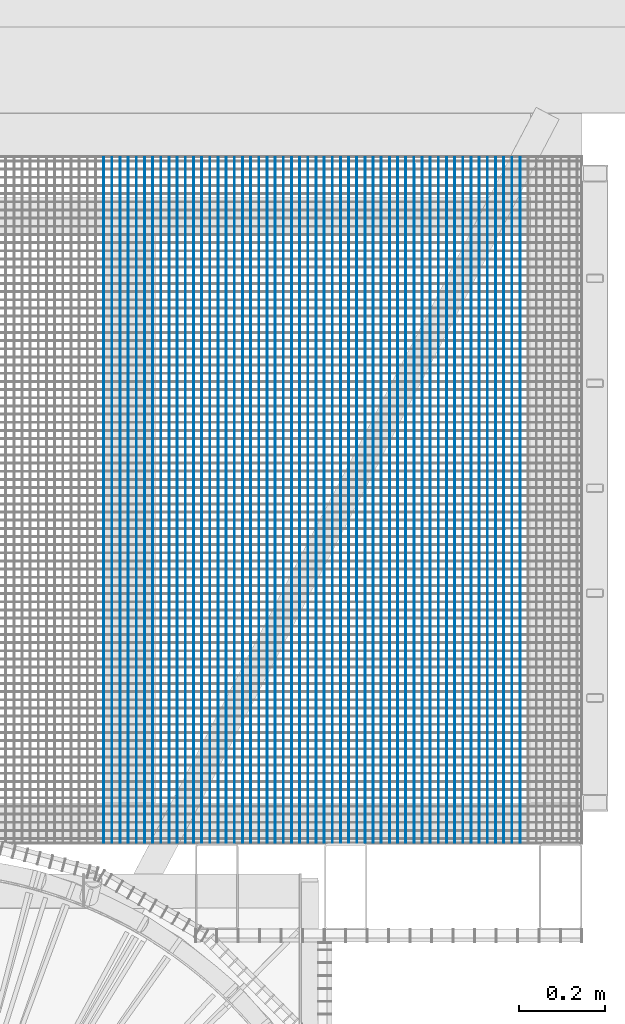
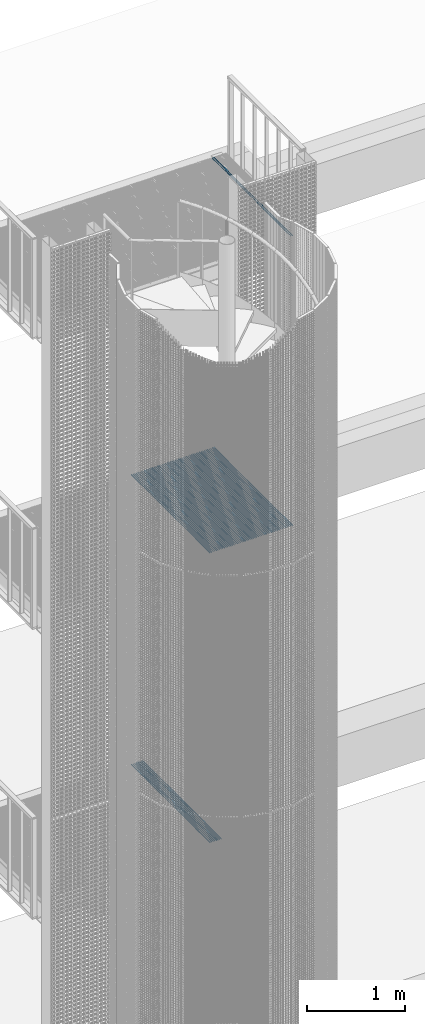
# One storey, part 87 of 1148: 62 beams, 3 elements without a shape of their own.
"""IFC2X3 building model written with IfcOpenShell, lengths in millimetres."""

from ifc_helpers import new_model, si_unit, frame, origin_with_axes, origin_2d_with_axis, place, context, subcontext, project, spatial, rectangle, extrude, material, type_object, element, aggregate, save


model = new_model("IFC2X3")

# Units and contexts
model_context = context("Model", 3, precision=1e-05, world=origin_with_axes())
body_context = subcontext(model_context, "Body", "Model", "MODEL_VIEW")
ifc_project = project(units=[si_unit("LENGTHUNIT", "METRE", prefix="MILLI"), si_unit("AREAUNIT", "SQUARE_METRE"), si_unit("VOLUMEUNIT", "CUBIC_METRE"), si_unit("MASSUNIT", "GRAM", prefix="KILO"), si_unit("TIMEUNIT", "SECOND"), si_unit("PLANEANGLEUNIT", "RADIAN"), si_unit("SOLIDANGLEUNIT", "STERADIAN"), si_unit("THERMODYNAMICTEMPERATUREUNIT", "DEGREE_CELSIUS"), si_unit("LUMINOUSINTENSITYUNIT", "LUMEN")], contexts=[model_context])

# Site, building, storey
site_placement = place(None, origin_with_axes())
site = spatial("IfcSite", under=ifc_project, at=site_placement, Name="Undefined", CompositionType="ELEMENT")
building_placement = place(site_placement, origin_with_axes())
building = spatial("IfcBuilding", under=site, at=building_placement, Name="Undefined", CompositionType="ELEMENT")
storey_placement = place(building_placement, origin_with_axes())
storey = spatial("IfcBuildingStorey", under=building, at=storey_placement, Name="Undefined", CompositionType="ELEMENT", Elevation=0.0)

# Assembly, beams
assembly_1_placement = place(storey_placement, origin_with_axes())
assembly_1 = element("IfcElementAssembly", 1, at=assembly_1_placement, inside=storey, Name="BORDURE", AssemblyPlace="NOTDEFINED", PredefinedType="NOTDEFINED")
ifc_material = material(Name="STEEL/S235JR")
beam_type = type_object("IfcBeamType", Name="PL2*10", PredefinedType="NOTDEFINED")
beam_1_placement = place(assembly_1_placement, frame((1387.07542471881, 1102.00914583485, 17285.0), z_axis=(0.0, 0.0, 1.0), x_axis=(-4.50599999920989e-06, 0.999999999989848, 0.0)))
beam_1 = element("IfcBeam", 2, at=beam_1_placement, type_object=beam_type, material=ifc_material, Name="ENTRETOISE", context=body_context, shape_type="SweptSolid", body=[
    extrude(rectangle(XDim=2.0, YDim=10.0, at=origin_2d_with_axis()), frame((1596.0000000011, -1.35186458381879e-18, -7.27595761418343e-12), z_axis=(-1.0, 0.0, 0.0), x_axis=(0.0, -1.0, 0.0)), (0.0, 0.0, 1.0), 1596.0),
])
beam_2_placement = place(assembly_1_placement, frame((1406.0754247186, 1102.00923935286, 17285.0), z_axis=(0.0, 0.0, 1.0), x_axis=(-4.50599999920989e-06, 0.999999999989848, 0.0)))
beam_2 = element("IfcBeam", 3, at=beam_2_placement, type_object=beam_type, material=ifc_material, Name="ENTRETOISE", context=body_context, shape_type="SweptSolid", body=[
    extrude(rectangle(XDim=2.0, YDim=10.0, at=origin_2d_with_axis()), frame((1596.0000000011, -1.35186458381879e-18, -7.27595761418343e-12), z_axis=(-1.0, 0.0, 0.0), x_axis=(0.0, -1.0, 0.0)), (0.0, 0.0, 1.0), 1596.0),
])
aggregate(assembly_1, [beam_1, beam_2])

assembly_2_placement = place(storey_placement, origin_with_axes())
assembly_2 = element("IfcElementAssembly", 4, at=assembly_2_placement, inside=storey, Name="BORDURE", AssemblyPlace="NOTDEFINED", PredefinedType="NOTDEFINED")
beam_3_placement = place(assembly_2_placement, frame((437.075424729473, 1102.00446993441, 13685.0), z_axis=(0.0, 0.0, 1.0), x_axis=(-4.50599999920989e-06, 0.999999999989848, 0.0)))
beam_3 = element("IfcBeam", 5, at=beam_3_placement, type_object=beam_type, material=ifc_material, Name="ENTRETOISE", context=body_context, shape_type="SweptSolid", body=[
    extrude(rectangle(XDim=2.0, YDim=10.0, at=origin_2d_with_axis()), frame((1596.0000000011, -1.35186458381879e-18, -7.27595761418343e-12), z_axis=(-1.0, 0.0, 0.0), x_axis=(0.0, -1.0, 0.0)), (0.0, 0.0, 1.0), 1596.0),
])
beam_4_placement = place(assembly_2_placement, frame((456.075424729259, 1102.00456345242, 13685.0), z_axis=(0.0, 0.0, 1.0), x_axis=(-4.50599999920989e-06, 0.999999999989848, 0.0)))
beam_4 = element("IfcBeam", 6, at=beam_4_placement, type_object=beam_type, material=ifc_material, Name="ENTRETOISE", context=body_context, shape_type="SweptSolid", body=[
    extrude(rectangle(XDim=2.0, YDim=10.0, at=origin_2d_with_axis()), frame((1596.0000000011, -1.35186458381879e-18, -7.27595761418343e-12), z_axis=(-1.0, 0.0, 0.0), x_axis=(0.0, -1.0, 0.0)), (0.0, 0.0, 1.0), 1596.0),
])
beam_5_placement = place(assembly_2_placement, frame((475.075424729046, 1102.00465697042, 13685.0), z_axis=(0.0, 0.0, 1.0), x_axis=(-4.50599999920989e-06, 0.999999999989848, 0.0)))
beam_5 = element("IfcBeam", 7, at=beam_5_placement, type_object=beam_type, material=ifc_material, Name="ENTRETOISE", context=body_context, shape_type="SweptSolid", body=[
    extrude(rectangle(XDim=2.0, YDim=10.0, at=origin_2d_with_axis()), frame((1596.0000000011, -1.35186458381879e-18, -7.27595761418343e-12), z_axis=(-1.0, 0.0, 0.0), x_axis=(0.0, -1.0, 0.0)), (0.0, 0.0, 1.0), 1596.0),
])
beam_6_placement = place(assembly_2_placement, frame((494.075424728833, 1102.00475048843, 13685.0), z_axis=(0.0, 0.0, 1.0), x_axis=(-4.50599999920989e-06, 0.999999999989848, 0.0)))
beam_6 = element("IfcBeam", 8, at=beam_6_placement, type_object=beam_type, material=ifc_material, Name="ENTRETOISE", context=body_context, shape_type="SweptSolid", body=[
    extrude(rectangle(XDim=2.0, YDim=10.0, at=origin_2d_with_axis()), frame((1596.0000000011, -1.35186458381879e-18, -7.27595761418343e-12), z_axis=(-1.0, 0.0, 0.0), x_axis=(0.0, -1.0, 0.0)), (0.0, 0.0, 1.0), 1596.0),
])
beam_7_placement = place(assembly_2_placement, frame((513.07542472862, 1102.00484400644, 13685.0), z_axis=(0.0, 0.0, 1.0), x_axis=(-4.50599999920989e-06, 0.999999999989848, 0.0)))
beam_7 = element("IfcBeam", 9, at=beam_7_placement, type_object=beam_type, material=ifc_material, Name="ENTRETOISE", context=body_context, shape_type="SweptSolid", body=[
    extrude(rectangle(XDim=2.0, YDim=10.0, at=origin_2d_with_axis()), frame((1596.0000000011, -1.35186458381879e-18, -7.27595761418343e-12), z_axis=(-1.0, 0.0, 0.0), x_axis=(0.0, -1.0, 0.0)), (0.0, 0.0, 1.0), 1596.0),
])
beam_8_placement = place(assembly_2_placement, frame((532.075424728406, 1102.00493752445, 13685.0), z_axis=(0.0, 0.0, 1.0), x_axis=(-4.50599999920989e-06, 0.999999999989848, 0.0)))
beam_8 = element("IfcBeam", 10, at=beam_8_placement, type_object=beam_type, material=ifc_material, Name="ENTRETOISE", context=body_context, shape_type="SweptSolid", body=[
    extrude(rectangle(XDim=2.0, YDim=10.0, at=origin_2d_with_axis()), frame((1596.0000000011, -1.35186458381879e-18, -7.27595761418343e-12), z_axis=(-1.0, 0.0, 0.0), x_axis=(0.0, -1.0, 0.0)), (0.0, 0.0, 1.0), 1596.0),
])
beam_9_placement = place(assembly_2_placement, frame((551.075424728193, 1102.00503104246, 13685.0), z_axis=(0.0, 0.0, 1.0), x_axis=(-4.50599999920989e-06, 0.999999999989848, 0.0)))
beam_9 = element("IfcBeam", 11, at=beam_9_placement, type_object=beam_type, material=ifc_material, Name="ENTRETOISE", context=body_context, shape_type="SweptSolid", body=[
    extrude(rectangle(XDim=2.0, YDim=10.0, at=origin_2d_with_axis()), frame((1596.0000000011, -1.35186458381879e-18, -7.27595761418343e-12), z_axis=(-1.0, 0.0, 0.0), x_axis=(0.0, -1.0, 0.0)), (0.0, 0.0, 1.0), 1596.0),
])
beam_10_placement = place(assembly_2_placement, frame((570.075424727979, 1102.00512456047, 13685.0), z_axis=(0.0, 0.0, 1.0), x_axis=(-4.50599999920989e-06, 0.999999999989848, 0.0)))
beam_10 = element("IfcBeam", 12, at=beam_10_placement, type_object=beam_type, material=ifc_material, Name="ENTRETOISE", context=body_context, shape_type="SweptSolid", body=[
    extrude(rectangle(XDim=2.0, YDim=10.0, at=origin_2d_with_axis()), frame((1596.0000000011, -1.35186458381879e-18, -7.27595761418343e-12), z_axis=(-1.0, 0.0, 0.0), x_axis=(0.0, -1.0, 0.0)), (0.0, 0.0, 1.0), 1596.0),
])
beam_11_placement = place(assembly_2_placement, frame((589.075424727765, 1102.00521807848, 13685.0), z_axis=(0.0, 0.0, 1.0), x_axis=(-4.50599999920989e-06, 0.999999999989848, 0.0)))
beam_11 = element("IfcBeam", 13, at=beam_11_placement, type_object=beam_type, material=ifc_material, Name="ENTRETOISE", context=body_context, shape_type="SweptSolid", body=[
    extrude(rectangle(XDim=2.0, YDim=10.0, at=origin_2d_with_axis()), frame((1596.0000000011, -1.35186458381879e-18, -7.27595761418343e-12), z_axis=(-1.0, 0.0, 0.0), x_axis=(0.0, -1.0, 0.0)), (0.0, 0.0, 1.0), 1596.0),
])
beam_12_placement = place(assembly_2_placement, frame((608.075424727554, 1102.00531159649, 13685.0), z_axis=(0.0, 0.0, 1.0), x_axis=(-4.50599999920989e-06, 0.999999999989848, 0.0)))
beam_12 = element("IfcBeam", 14, at=beam_12_placement, type_object=beam_type, material=ifc_material, Name="ENTRETOISE", context=body_context, shape_type="SweptSolid", body=[
    extrude(rectangle(XDim=2.0, YDim=10.0, at=origin_2d_with_axis()), frame((1596.0000000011, -1.35186458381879e-18, -7.27595761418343e-12), z_axis=(-1.0, 0.0, 0.0), x_axis=(0.0, -1.0, 0.0)), (0.0, 0.0, 1.0), 1596.0),
])
beam_13_placement = place(assembly_2_placement, frame((627.07542472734, 1102.0054051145, 13685.0), z_axis=(0.0, 0.0, 1.0), x_axis=(-4.50599999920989e-06, 0.999999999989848, 0.0)))
beam_13 = element("IfcBeam", 15, at=beam_13_placement, type_object=beam_type, material=ifc_material, Name="ENTRETOISE", context=body_context, shape_type="SweptSolid", body=[
    extrude(rectangle(XDim=2.0, YDim=10.0, at=origin_2d_with_axis()), frame((1596.0000000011, -1.35186458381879e-18, -7.27595761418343e-12), z_axis=(-1.0, 0.0, 0.0), x_axis=(0.0, -1.0, 0.0)), (0.0, 0.0, 1.0), 1596.0),
])
beam_14_placement = place(assembly_2_placement, frame((646.075424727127, 1102.0054986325, 13685.0), z_axis=(0.0, 0.0, 1.0), x_axis=(-4.50599999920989e-06, 0.999999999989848, 0.0)))
beam_14 = element("IfcBeam", 16, at=beam_14_placement, type_object=beam_type, material=ifc_material, Name="ENTRETOISE", context=body_context, shape_type="SweptSolid", body=[
    extrude(rectangle(XDim=2.0, YDim=10.0, at=origin_2d_with_axis()), frame((1596.0000000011, -1.35186458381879e-18, -7.27595761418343e-12), z_axis=(-1.0, 0.0, 0.0), x_axis=(0.0, -1.0, 0.0)), (0.0, 0.0, 1.0), 1596.0),
])
beam_15_placement = place(assembly_2_placement, frame((665.075424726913, 1102.00559215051, 13685.0), z_axis=(0.0, 0.0, 1.0), x_axis=(-4.50599999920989e-06, 0.999999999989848, 0.0)))
beam_15 = element("IfcBeam", 17, at=beam_15_placement, type_object=beam_type, material=ifc_material, Name="ENTRETOISE", context=body_context, shape_type="SweptSolid", body=[
    extrude(rectangle(XDim=2.0, YDim=10.0, at=origin_2d_with_axis()), frame((1596.0000000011, -1.35186458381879e-18, -7.27595761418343e-12), z_axis=(-1.0, 0.0, 0.0), x_axis=(0.0, -1.0, 0.0)), (0.0, 0.0, 1.0), 1596.0),
])
beam_16_placement = place(assembly_2_placement, frame((684.0754247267, 1102.00568566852, 13685.0), z_axis=(0.0, 0.0, 1.0), x_axis=(-4.50599999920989e-06, 0.999999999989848, 0.0)))
beam_16 = element("IfcBeam", 18, at=beam_16_placement, type_object=beam_type, material=ifc_material, Name="ENTRETOISE", context=body_context, shape_type="SweptSolid", body=[
    extrude(rectangle(XDim=2.0, YDim=10.0, at=origin_2d_with_axis()), frame((1596.0000000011, -1.35186458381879e-18, -7.27595761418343e-12), z_axis=(-1.0, 0.0, 0.0), x_axis=(0.0, -1.0, 0.0)), (0.0, 0.0, 1.0), 1596.0),
])
beam_17_placement = place(assembly_2_placement, frame((703.075424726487, 1102.00577918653, 13685.0), z_axis=(0.0, 0.0, 1.0), x_axis=(-4.50599999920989e-06, 0.999999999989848, 0.0)))
beam_17 = element("IfcBeam", 19, at=beam_17_placement, type_object=beam_type, material=ifc_material, Name="ENTRETOISE", context=body_context, shape_type="SweptSolid", body=[
    extrude(rectangle(XDim=2.0, YDim=10.0, at=origin_2d_with_axis()), frame((1596.0000000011, -1.35186458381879e-18, -7.27595761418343e-12), z_axis=(-1.0, 0.0, 0.0), x_axis=(0.0, -1.0, 0.0)), (0.0, 0.0, 1.0), 1596.0),
])
beam_18_placement = place(assembly_2_placement, frame((722.075424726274, 1102.00587270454, 13685.0), z_axis=(0.0, 0.0, 1.0), x_axis=(-4.50599999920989e-06, 0.999999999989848, 0.0)))
beam_18 = element("IfcBeam", 20, at=beam_18_placement, type_object=beam_type, material=ifc_material, Name="ENTRETOISE", context=body_context, shape_type="SweptSolid", body=[
    extrude(rectangle(XDim=2.0, YDim=10.0, at=origin_2d_with_axis()), frame((1596.0000000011, -1.35186458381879e-18, -7.27595761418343e-12), z_axis=(-1.0, 0.0, 0.0), x_axis=(0.0, -1.0, 0.0)), (0.0, 0.0, 1.0), 1596.0),
])
beam_19_placement = place(assembly_2_placement, frame((741.07542472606, 1102.00596622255, 13685.0), z_axis=(0.0, 0.0, 1.0), x_axis=(-4.50599999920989e-06, 0.999999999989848, 0.0)))
beam_19 = element("IfcBeam", 21, at=beam_19_placement, type_object=beam_type, material=ifc_material, Name="ENTRETOISE", context=body_context, shape_type="SweptSolid", body=[
    extrude(rectangle(XDim=2.0, YDim=10.0, at=origin_2d_with_axis()), frame((1596.0000000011, -1.35186458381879e-18, -7.27595761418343e-12), z_axis=(-1.0, 0.0, 0.0), x_axis=(0.0, -1.0, 0.0)), (0.0, 0.0, 1.0), 1596.0),
])
beam_20_placement = place(assembly_2_placement, frame((760.075424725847, 1102.00605974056, 13685.0), z_axis=(0.0, 0.0, 1.0), x_axis=(-4.50599999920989e-06, 0.999999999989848, 0.0)))
beam_20 = element("IfcBeam", 22, at=beam_20_placement, type_object=beam_type, material=ifc_material, Name="ENTRETOISE", context=body_context, shape_type="SweptSolid", body=[
    extrude(rectangle(XDim=2.0, YDim=10.0, at=origin_2d_with_axis()), frame((1596.0000000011, -1.35186458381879e-18, -7.27595761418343e-12), z_axis=(-1.0, 0.0, 0.0), x_axis=(0.0, -1.0, 0.0)), (0.0, 0.0, 1.0), 1596.0),
])
beam_21_placement = place(assembly_2_placement, frame((779.075424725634, 1102.00615325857, 13685.0), z_axis=(0.0, 0.0, 1.0), x_axis=(-4.50599999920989e-06, 0.999999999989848, 0.0)))
beam_21 = element("IfcBeam", 23, at=beam_21_placement, type_object=beam_type, material=ifc_material, Name="ENTRETOISE", context=body_context, shape_type="SweptSolid", body=[
    extrude(rectangle(XDim=2.0, YDim=10.0, at=origin_2d_with_axis()), frame((1596.0000000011, -1.35186458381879e-18, -7.27595761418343e-12), z_axis=(-1.0, 0.0, 0.0), x_axis=(0.0, -1.0, 0.0)), (0.0, 0.0, 1.0), 1596.0),
])
beam_22_placement = place(assembly_2_placement, frame((798.075424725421, 1102.00624677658, 13685.0), z_axis=(0.0, 0.0, 1.0), x_axis=(-4.50599999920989e-06, 0.999999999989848, 0.0)))
beam_22 = element("IfcBeam", 24, at=beam_22_placement, type_object=beam_type, material=ifc_material, Name="ENTRETOISE", context=body_context, shape_type="SweptSolid", body=[
    extrude(rectangle(XDim=2.0, YDim=10.0, at=origin_2d_with_axis()), frame((1596.0000000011, -1.35186458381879e-18, -7.27595761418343e-12), z_axis=(-1.0, 0.0, 0.0), x_axis=(0.0, -1.0, 0.0)), (0.0, 0.0, 1.0), 1596.0),
])
beam_23_placement = place(assembly_2_placement, frame((817.075424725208, 1102.00634029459, 13685.0), z_axis=(0.0, 0.0, 1.0), x_axis=(-4.50599999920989e-06, 0.999999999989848, 0.0)))
beam_23 = element("IfcBeam", 25, at=beam_23_placement, type_object=beam_type, material=ifc_material, Name="ENTRETOISE", context=body_context, shape_type="SweptSolid", body=[
    extrude(rectangle(XDim=2.0, YDim=10.0, at=origin_2d_with_axis()), frame((1596.0000000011, -1.35186458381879e-18, -7.27595761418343e-12), z_axis=(-1.0, 0.0, 0.0), x_axis=(0.0, -1.0, 0.0)), (0.0, 0.0, 1.0), 1596.0),
])
beam_24_placement = place(assembly_2_placement, frame((836.075424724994, 1102.00643381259, 13685.0), z_axis=(0.0, 0.0, 1.0), x_axis=(-4.50599999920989e-06, 0.999999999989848, 0.0)))
beam_24 = element("IfcBeam", 26, at=beam_24_placement, type_object=beam_type, material=ifc_material, Name="ENTRETOISE", context=body_context, shape_type="SweptSolid", body=[
    extrude(rectangle(XDim=2.0, YDim=10.0, at=origin_2d_with_axis()), frame((1596.0000000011, -1.35186458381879e-18, -7.27595761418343e-12), z_axis=(-1.0, 0.0, 0.0), x_axis=(0.0, -1.0, 0.0)), (0.0, 0.0, 1.0), 1596.0),
])
beam_25_placement = place(assembly_2_placement, frame((855.075424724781, 1102.0065273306, 13685.0), z_axis=(0.0, 0.0, 1.0), x_axis=(-4.50599999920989e-06, 0.999999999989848, 0.0)))
beam_25 = element("IfcBeam", 27, at=beam_25_placement, type_object=beam_type, material=ifc_material, Name="ENTRETOISE", context=body_context, shape_type="SweptSolid", body=[
    extrude(rectangle(XDim=2.0, YDim=10.0, at=origin_2d_with_axis()), frame((1596.0000000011, -1.35186458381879e-18, -7.27595761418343e-12), z_axis=(-1.0, 0.0, 0.0), x_axis=(0.0, -1.0, 0.0)), (0.0, 0.0, 1.0), 1596.0),
])
beam_26_placement = place(assembly_2_placement, frame((874.075424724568, 1102.00662084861, 13685.0), z_axis=(0.0, 0.0, 1.0), x_axis=(-4.50599999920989e-06, 0.999999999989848, 0.0)))
beam_26 = element("IfcBeam", 28, at=beam_26_placement, type_object=beam_type, material=ifc_material, Name="ENTRETOISE", context=body_context, shape_type="SweptSolid", body=[
    extrude(rectangle(XDim=2.0, YDim=10.0, at=origin_2d_with_axis()), frame((1596.0000000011, -1.35186458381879e-18, -7.27595761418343e-12), z_axis=(-1.0, 0.0, 0.0), x_axis=(0.0, -1.0, 0.0)), (0.0, 0.0, 1.0), 1596.0),
])
beam_27_placement = place(assembly_2_placement, frame((893.075424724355, 1102.00671436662, 13685.0), z_axis=(0.0, 0.0, 1.0), x_axis=(-4.50599999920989e-06, 0.999999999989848, 0.0)))
beam_27 = element("IfcBeam", 29, at=beam_27_placement, type_object=beam_type, material=ifc_material, Name="ENTRETOISE", context=body_context, shape_type="SweptSolid", body=[
    extrude(rectangle(XDim=2.0, YDim=10.0, at=origin_2d_with_axis()), frame((1596.0000000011, -1.35186458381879e-18, -7.27595761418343e-12), z_axis=(-1.0, 0.0, 0.0), x_axis=(0.0, -1.0, 0.0)), (0.0, 0.0, 1.0), 1596.0),
])
beam_28_placement = place(assembly_2_placement, frame((912.075424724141, 1102.00680788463, 13685.0), z_axis=(0.0, 0.0, 1.0), x_axis=(-4.50599999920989e-06, 0.999999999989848, 0.0)))
beam_28 = element("IfcBeam", 30, at=beam_28_placement, type_object=beam_type, material=ifc_material, Name="ENTRETOISE", context=body_context, shape_type="SweptSolid", body=[
    extrude(rectangle(XDim=2.0, YDim=10.0, at=origin_2d_with_axis()), frame((1596.0000000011, -1.35186458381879e-18, -7.27595761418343e-12), z_axis=(-1.0, 0.0, 0.0), x_axis=(0.0, -1.0, 0.0)), (0.0, 0.0, 1.0), 1596.0),
])
beam_29_placement = place(assembly_2_placement, frame((931.075424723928, 1102.00690140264, 13685.0), z_axis=(0.0, 0.0, 1.0), x_axis=(-4.50599999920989e-06, 0.999999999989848, 0.0)))
beam_29 = element("IfcBeam", 31, at=beam_29_placement, type_object=beam_type, material=ifc_material, Name="ENTRETOISE", context=body_context, shape_type="SweptSolid", body=[
    extrude(rectangle(XDim=2.0, YDim=10.0, at=origin_2d_with_axis()), frame((1596.0000000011, -1.35186458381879e-18, -7.27595761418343e-12), z_axis=(-1.0, 0.0, 0.0), x_axis=(0.0, -1.0, 0.0)), (0.0, 0.0, 1.0), 1596.0),
])
beam_30_placement = place(assembly_2_placement, frame((950.075424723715, 1102.00699492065, 13685.0), z_axis=(0.0, 0.0, 1.0), x_axis=(-4.50599999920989e-06, 0.999999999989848, 0.0)))
beam_30 = element("IfcBeam", 32, at=beam_30_placement, type_object=beam_type, material=ifc_material, Name="ENTRETOISE", context=body_context, shape_type="SweptSolid", body=[
    extrude(rectangle(XDim=2.0, YDim=10.0, at=origin_2d_with_axis()), frame((1596.0000000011, -1.35186458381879e-18, -7.27595761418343e-12), z_axis=(-1.0, 0.0, 0.0), x_axis=(0.0, -1.0, 0.0)), (0.0, 0.0, 1.0), 1596.0),
])
beam_31_placement = place(assembly_2_placement, frame((969.075424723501, 1102.00708843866, 13685.0), z_axis=(0.0, 0.0, 1.0), x_axis=(-4.50599999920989e-06, 0.999999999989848, 0.0)))
beam_31 = element("IfcBeam", 33, at=beam_31_placement, type_object=beam_type, material=ifc_material, Name="ENTRETOISE", context=body_context, shape_type="SweptSolid", body=[
    extrude(rectangle(XDim=2.0, YDim=10.0, at=origin_2d_with_axis()), frame((1596.0000000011, -1.35186458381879e-18, -7.27595761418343e-12), z_axis=(-1.0, 0.0, 0.0), x_axis=(0.0, -1.0, 0.0)), (0.0, 0.0, 1.0), 1596.0),
])
beam_32_placement = place(assembly_2_placement, frame((988.075424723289, 1102.00718195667, 13685.0), z_axis=(0.0, 0.0, 1.0), x_axis=(-4.50599999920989e-06, 0.999999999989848, 0.0)))
beam_32 = element("IfcBeam", 34, at=beam_32_placement, type_object=beam_type, material=ifc_material, Name="ENTRETOISE", context=body_context, shape_type="SweptSolid", body=[
    extrude(rectangle(XDim=2.0, YDim=10.0, at=origin_2d_with_axis()), frame((1596.0000000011, -1.35186458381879e-18, -7.27595761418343e-12), z_axis=(-1.0, 0.0, 0.0), x_axis=(0.0, -1.0, 0.0)), (0.0, 0.0, 1.0), 1596.0),
])
beam_33_placement = place(assembly_2_placement, frame((1007.07542472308, 1102.00727547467, 13685.0), z_axis=(0.0, 0.0, 1.0), x_axis=(-4.50599999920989e-06, 0.999999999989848, 0.0)))
beam_33 = element("IfcBeam", 35, at=beam_33_placement, type_object=beam_type, material=ifc_material, Name="ENTRETOISE", context=body_context, shape_type="SweptSolid", body=[
    extrude(rectangle(XDim=2.0, YDim=10.0, at=origin_2d_with_axis()), frame((1596.0000000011, -1.35186458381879e-18, -7.27595761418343e-12), z_axis=(-1.0, 0.0, 0.0), x_axis=(0.0, -1.0, 0.0)), (0.0, 0.0, 1.0), 1596.0),
])
beam_34_placement = place(assembly_2_placement, frame((1026.07542472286, 1102.00736899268, 13685.0), z_axis=(0.0, 0.0, 1.0), x_axis=(-4.50599999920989e-06, 0.999999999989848, 0.0)))
beam_34 = element("IfcBeam", 36, at=beam_34_placement, type_object=beam_type, material=ifc_material, Name="ENTRETOISE", context=body_context, shape_type="SweptSolid", body=[
    extrude(rectangle(XDim=2.0, YDim=10.0, at=origin_2d_with_axis()), frame((1596.0000000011, -1.35186458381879e-18, -7.27595761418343e-12), z_axis=(-1.0, 0.0, 0.0), x_axis=(0.0, -1.0, 0.0)), (0.0, 0.0, 1.0), 1596.0),
])
beam_35_placement = place(assembly_2_placement, frame((1045.07542472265, 1102.00746251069, 13685.0), z_axis=(0.0, 0.0, 1.0), x_axis=(-4.50599999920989e-06, 0.999999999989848, 0.0)))
beam_35 = element("IfcBeam", 37, at=beam_35_placement, type_object=beam_type, material=ifc_material, Name="ENTRETOISE", context=body_context, shape_type="SweptSolid", body=[
    extrude(rectangle(XDim=2.0, YDim=10.0, at=origin_2d_with_axis()), frame((1596.0000000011, -1.35186458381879e-18, -7.27595761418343e-12), z_axis=(-1.0, 0.0, 0.0), x_axis=(0.0, -1.0, 0.0)), (0.0, 0.0, 1.0), 1596.0),
])
beam_36_placement = place(assembly_2_placement, frame((1064.07542472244, 1102.0075560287, 13685.0), z_axis=(0.0, 0.0, 1.0), x_axis=(-4.50599999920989e-06, 0.999999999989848, 0.0)))
beam_36 = element("IfcBeam", 38, at=beam_36_placement, type_object=beam_type, material=ifc_material, Name="ENTRETOISE", context=body_context, shape_type="SweptSolid", body=[
    extrude(rectangle(XDim=2.0, YDim=10.0, at=origin_2d_with_axis()), frame((1596.0000000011, -1.35186458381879e-18, -7.27595761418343e-12), z_axis=(-1.0, 0.0, 0.0), x_axis=(0.0, -1.0, 0.0)), (0.0, 0.0, 1.0), 1596.0),
])
beam_37_placement = place(assembly_2_placement, frame((1083.07542472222, 1102.00764954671, 13685.0), z_axis=(0.0, 0.0, 1.0), x_axis=(-4.50599999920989e-06, 0.999999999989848, 0.0)))
beam_37 = element("IfcBeam", 39, at=beam_37_placement, type_object=beam_type, material=ifc_material, Name="ENTRETOISE", context=body_context, shape_type="SweptSolid", body=[
    extrude(rectangle(XDim=2.0, YDim=10.0, at=origin_2d_with_axis()), frame((1596.0000000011, -1.35186458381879e-18, -7.27595761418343e-12), z_axis=(-1.0, 0.0, 0.0), x_axis=(0.0, -1.0, 0.0)), (0.0, 0.0, 1.0), 1596.0),
])
beam_38_placement = place(assembly_2_placement, frame((1102.07542472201, 1102.00774306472, 13685.0), z_axis=(0.0, 0.0, 1.0), x_axis=(-4.50599999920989e-06, 0.999999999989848, 0.0)))
beam_38 = element("IfcBeam", 40, at=beam_38_placement, type_object=beam_type, material=ifc_material, Name="ENTRETOISE", context=body_context, shape_type="SweptSolid", body=[
    extrude(rectangle(XDim=2.0, YDim=10.0, at=origin_2d_with_axis()), frame((1596.0000000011, -1.35186458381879e-18, -7.27595761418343e-12), z_axis=(-1.0, 0.0, 0.0), x_axis=(0.0, -1.0, 0.0)), (0.0, 0.0, 1.0), 1596.0),
])
beam_39_placement = place(assembly_2_placement, frame((1121.0754247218, 1102.00783658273, 13685.0), z_axis=(0.0, 0.0, 1.0), x_axis=(-4.50599999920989e-06, 0.999999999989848, 0.0)))
beam_39 = element("IfcBeam", 41, at=beam_39_placement, type_object=beam_type, material=ifc_material, Name="ENTRETOISE", context=body_context, shape_type="SweptSolid", body=[
    extrude(rectangle(XDim=2.0, YDim=10.0, at=origin_2d_with_axis()), frame((1596.0000000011, -1.35186458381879e-18, -7.27595761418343e-12), z_axis=(-1.0, 0.0, 0.0), x_axis=(0.0, -1.0, 0.0)), (0.0, 0.0, 1.0), 1596.0),
])
beam_40_placement = place(assembly_2_placement, frame((1140.07542472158, 1102.00793010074, 13685.0), z_axis=(0.0, 0.0, 1.0), x_axis=(-4.50599999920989e-06, 0.999999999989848, 0.0)))
beam_40 = element("IfcBeam", 42, at=beam_40_placement, type_object=beam_type, material=ifc_material, Name="ENTRETOISE", context=body_context, shape_type="SweptSolid", body=[
    extrude(rectangle(XDim=2.0, YDim=10.0, at=origin_2d_with_axis()), frame((1596.0000000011, -1.35186458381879e-18, -7.27595761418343e-12), z_axis=(-1.0, 0.0, 0.0), x_axis=(0.0, -1.0, 0.0)), (0.0, 0.0, 1.0), 1596.0),
])
beam_41_placement = place(assembly_2_placement, frame((1159.07542472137, 1102.00802361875, 13685.0), z_axis=(0.0, 0.0, 1.0), x_axis=(-4.50599999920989e-06, 0.999999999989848, 0.0)))
beam_41 = element("IfcBeam", 43, at=beam_41_placement, type_object=beam_type, material=ifc_material, Name="ENTRETOISE", context=body_context, shape_type="SweptSolid", body=[
    extrude(rectangle(XDim=2.0, YDim=10.0, at=origin_2d_with_axis()), frame((1596.0000000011, -1.35186458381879e-18, -7.27595761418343e-12), z_axis=(-1.0, 0.0, 0.0), x_axis=(0.0, -1.0, 0.0)), (0.0, 0.0, 1.0), 1596.0),
])
beam_42_placement = place(assembly_2_placement, frame((1178.07542472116, 1102.00811713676, 13685.0), z_axis=(0.0, 0.0, 1.0), x_axis=(-4.50599999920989e-06, 0.999999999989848, 0.0)))
beam_42 = element("IfcBeam", 44, at=beam_42_placement, type_object=beam_type, material=ifc_material, Name="ENTRETOISE", context=body_context, shape_type="SweptSolid", body=[
    extrude(rectangle(XDim=2.0, YDim=10.0, at=origin_2d_with_axis()), frame((1596.0000000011, -1.35186458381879e-18, -7.27595761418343e-12), z_axis=(-1.0, 0.0, 0.0), x_axis=(0.0, -1.0, 0.0)), (0.0, 0.0, 1.0), 1596.0),
])
beam_43_placement = place(assembly_2_placement, frame((1197.07542472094, 1102.00821065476, 13685.0), z_axis=(0.0, 0.0, 1.0), x_axis=(-4.50599999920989e-06, 0.999999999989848, 0.0)))
beam_43 = element("IfcBeam", 45, at=beam_43_placement, type_object=beam_type, material=ifc_material, Name="ENTRETOISE", context=body_context, shape_type="SweptSolid", body=[
    extrude(rectangle(XDim=2.0, YDim=10.0, at=origin_2d_with_axis()), frame((1596.0000000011, -1.35186458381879e-18, -7.27595761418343e-12), z_axis=(-1.0, 0.0, 0.0), x_axis=(0.0, -1.0, 0.0)), (0.0, 0.0, 1.0), 1596.0),
])
beam_44_placement = place(assembly_2_placement, frame((1216.07542472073, 1102.00830417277, 13685.0), z_axis=(0.0, 0.0, 1.0), x_axis=(-4.50599999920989e-06, 0.999999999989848, 0.0)))
beam_44 = element("IfcBeam", 46, at=beam_44_placement, type_object=beam_type, material=ifc_material, Name="ENTRETOISE", context=body_context, shape_type="SweptSolid", body=[
    extrude(rectangle(XDim=2.0, YDim=10.0, at=origin_2d_with_axis()), frame((1596.0000000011, -1.35186458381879e-18, -7.27595761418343e-12), z_axis=(-1.0, 0.0, 0.0), x_axis=(0.0, -1.0, 0.0)), (0.0, 0.0, 1.0), 1596.0),
])
beam_45_placement = place(assembly_2_placement, frame((1235.07542472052, 1102.00839769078, 13685.0), z_axis=(0.0, 0.0, 1.0), x_axis=(-4.50599999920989e-06, 0.999999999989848, 0.0)))
beam_45 = element("IfcBeam", 47, at=beam_45_placement, type_object=beam_type, material=ifc_material, Name="ENTRETOISE", context=body_context, shape_type="SweptSolid", body=[
    extrude(rectangle(XDim=2.0, YDim=10.0, at=origin_2d_with_axis()), frame((1596.0000000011, -1.35186458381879e-18, -7.27595761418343e-12), z_axis=(-1.0, 0.0, 0.0), x_axis=(0.0, -1.0, 0.0)), (0.0, 0.0, 1.0), 1596.0),
])
beam_46_placement = place(assembly_2_placement, frame((1254.0754247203, 1102.00849120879, 13685.0), z_axis=(0.0, 0.0, 1.0), x_axis=(-4.50599999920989e-06, 0.999999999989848, 0.0)))
beam_46 = element("IfcBeam", 48, at=beam_46_placement, type_object=beam_type, material=ifc_material, Name="ENTRETOISE", context=body_context, shape_type="SweptSolid", body=[
    extrude(rectangle(XDim=2.0, YDim=10.0, at=origin_2d_with_axis()), frame((1596.0000000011, -1.35186458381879e-18, -7.27595761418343e-12), z_axis=(-1.0, 0.0, 0.0), x_axis=(0.0, -1.0, 0.0)), (0.0, 0.0, 1.0), 1596.0),
])
beam_47_placement = place(assembly_2_placement, frame((1273.07542472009, 1102.0085847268, 13685.0), z_axis=(0.0, 0.0, 1.0), x_axis=(-4.50599999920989e-06, 0.999999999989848, 0.0)))
beam_47 = element("IfcBeam", 49, at=beam_47_placement, type_object=beam_type, material=ifc_material, Name="ENTRETOISE", context=body_context, shape_type="SweptSolid", body=[
    extrude(rectangle(XDim=2.0, YDim=10.0, at=origin_2d_with_axis()), frame((1596.0000000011, -1.35186458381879e-18, -7.27595761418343e-12), z_axis=(-1.0, 0.0, 0.0), x_axis=(0.0, -1.0, 0.0)), (0.0, 0.0, 1.0), 1596.0),
])
beam_48_placement = place(assembly_2_placement, frame((1292.07542471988, 1102.00867824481, 13685.0), z_axis=(0.0, 0.0, 1.0), x_axis=(-4.50599999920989e-06, 0.999999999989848, 0.0)))
beam_48 = element("IfcBeam", 50, at=beam_48_placement, type_object=beam_type, material=ifc_material, Name="ENTRETOISE", context=body_context, shape_type="SweptSolid", body=[
    extrude(rectangle(XDim=2.0, YDim=10.0, at=origin_2d_with_axis()), frame((1596.0000000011, -1.35186458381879e-18, -7.27595761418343e-12), z_axis=(-1.0, 0.0, 0.0), x_axis=(0.0, -1.0, 0.0)), (0.0, 0.0, 1.0), 1596.0),
])
beam_49_placement = place(assembly_2_placement, frame((1311.07542471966, 1102.00877176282, 13685.0), z_axis=(0.0, 0.0, 1.0), x_axis=(-4.50599999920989e-06, 0.999999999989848, 0.0)))
beam_49 = element("IfcBeam", 51, at=beam_49_placement, type_object=beam_type, material=ifc_material, Name="ENTRETOISE", context=body_context, shape_type="SweptSolid", body=[
    extrude(rectangle(XDim=2.0, YDim=10.0, at=origin_2d_with_axis()), frame((1596.0000000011, -1.35186458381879e-18, -7.27595761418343e-12), z_axis=(-1.0, 0.0, 0.0), x_axis=(0.0, -1.0, 0.0)), (0.0, 0.0, 1.0), 1596.0),
])
beam_50_placement = place(assembly_2_placement, frame((1330.07542471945, 1102.00886528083, 13685.0), z_axis=(0.0, 0.0, 1.0), x_axis=(-4.50599999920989e-06, 0.999999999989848, 0.0)))
beam_50 = element("IfcBeam", 52, at=beam_50_placement, type_object=beam_type, material=ifc_material, Name="ENTRETOISE", context=body_context, shape_type="SweptSolid", body=[
    extrude(rectangle(XDim=2.0, YDim=10.0, at=origin_2d_with_axis()), frame((1596.0000000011, -1.35186458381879e-18, -7.27595761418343e-12), z_axis=(-1.0, 0.0, 0.0), x_axis=(0.0, -1.0, 0.0)), (0.0, 0.0, 1.0), 1596.0),
])
beam_51_placement = place(assembly_2_placement, frame((1349.07542471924, 1102.00895879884, 13685.0), z_axis=(0.0, 0.0, 1.0), x_axis=(-4.50599999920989e-06, 0.999999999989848, 0.0)))
beam_51 = element("IfcBeam", 53, at=beam_51_placement, type_object=beam_type, material=ifc_material, Name="ENTRETOISE", context=body_context, shape_type="SweptSolid", body=[
    extrude(rectangle(XDim=2.0, YDim=10.0, at=origin_2d_with_axis()), frame((1596.0000000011, -1.35186458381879e-18, -7.27595761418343e-12), z_axis=(-1.0, 0.0, 0.0), x_axis=(0.0, -1.0, 0.0)), (0.0, 0.0, 1.0), 1596.0),
])
beam_52_placement = place(assembly_2_placement, frame((1368.07542471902, 1102.00905231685, 13685.0), z_axis=(0.0, 0.0, 1.0), x_axis=(-4.50599999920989e-06, 0.999999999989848, 0.0)))
beam_52 = element("IfcBeam", 54, at=beam_52_placement, type_object=beam_type, material=ifc_material, Name="ENTRETOISE", context=body_context, shape_type="SweptSolid", body=[
    extrude(rectangle(XDim=2.0, YDim=10.0, at=origin_2d_with_axis()), frame((1596.0000000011, -1.35186458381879e-18, -7.27595761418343e-12), z_axis=(-1.0, 0.0, 0.0), x_axis=(0.0, -1.0, 0.0)), (0.0, 0.0, 1.0), 1596.0),
])
beam_53_placement = place(assembly_2_placement, frame((1387.07542471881, 1102.00914583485, 13685.0), z_axis=(0.0, 0.0, 1.0), x_axis=(-4.50599999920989e-06, 0.999999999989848, 0.0)))
beam_53 = element("IfcBeam", 55, at=beam_53_placement, type_object=beam_type, material=ifc_material, Name="ENTRETOISE", context=body_context, shape_type="SweptSolid", body=[
    extrude(rectangle(XDim=2.0, YDim=10.0, at=origin_2d_with_axis()), frame((1596.0000000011, -1.35186458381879e-18, -7.27595761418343e-12), z_axis=(-1.0, 0.0, 0.0), x_axis=(0.0, -1.0, 0.0)), (0.0, 0.0, 1.0), 1596.0),
])
beam_54_placement = place(assembly_2_placement, frame((1406.0754247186, 1102.00923935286, 13685.0), z_axis=(0.0, 0.0, 1.0), x_axis=(-4.50599999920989e-06, 0.999999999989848, 0.0)))
beam_54 = element("IfcBeam", 56, at=beam_54_placement, type_object=beam_type, material=ifc_material, Name="ENTRETOISE", context=body_context, shape_type="SweptSolid", body=[
    extrude(rectangle(XDim=2.0, YDim=10.0, at=origin_2d_with_axis()), frame((1596.0000000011, -1.35186458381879e-18, -7.27595761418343e-12), z_axis=(-1.0, 0.0, 0.0), x_axis=(0.0, -1.0, 0.0)), (0.0, 0.0, 1.0), 1596.0),
])
aggregate(assembly_2, [beam_3, beam_4, beam_5, beam_6, beam_7, beam_8, beam_9, beam_10, beam_11, beam_12, beam_13, beam_14, beam_15, beam_16, beam_17, beam_18, beam_19, beam_20, beam_21, beam_22, beam_23, beam_24, beam_25, beam_26, beam_27, beam_28, beam_29, beam_30, beam_31, beam_32, beam_33, beam_34, beam_35, beam_36, beam_37, beam_38, beam_39, beam_40, beam_41, beam_42, beam_43, beam_44, beam_45, beam_46, beam_47, beam_48, beam_49, beam_50, beam_51, beam_52, beam_53, beam_54])

assembly_3_placement = place(storey_placement, origin_with_axes())
assembly_3 = element("IfcElementAssembly", 57, at=assembly_3_placement, inside=storey, Name="BORDURE", AssemblyPlace="NOTDEFINED", PredefinedType="NOTDEFINED")
beam_55_placement = place(assembly_3_placement, frame((437.075424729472, 1102.00446993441, 10085.0), z_axis=(0.0, 0.0, 1.0), x_axis=(-4.50599999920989e-06, 0.999999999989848, 0.0)))
beam_55 = element("IfcBeam", 58, at=beam_55_placement, type_object=beam_type, material=ifc_material, Name="ENTRETOISE", context=body_context, shape_type="SweptSolid", body=[
    extrude(rectangle(XDim=2.0, YDim=10.0, at=origin_2d_with_axis()), frame((1596.0000000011, -1.35186458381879e-18, -7.27595761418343e-12), z_axis=(-1.0, 0.0, 0.0), x_axis=(0.0, -1.0, 0.0)), (0.0, 0.0, 1.0), 1596.0),
])
beam_56_placement = place(assembly_3_placement, frame((456.075424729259, 1102.00456345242, 10085.0), z_axis=(0.0, 0.0, 1.0), x_axis=(-4.50599999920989e-06, 0.999999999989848, 0.0)))
beam_56 = element("IfcBeam", 59, at=beam_56_placement, type_object=beam_type, material=ifc_material, Name="ENTRETOISE", context=body_context, shape_type="SweptSolid", body=[
    extrude(rectangle(XDim=2.0, YDim=10.0, at=origin_2d_with_axis()), frame((1596.0000000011, -1.35186458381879e-18, -7.27595761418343e-12), z_axis=(-1.0, 0.0, 0.0), x_axis=(0.0, -1.0, 0.0)), (0.0, 0.0, 1.0), 1596.0),
])
beam_57_placement = place(assembly_3_placement, frame((475.075424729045, 1102.00465697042, 10085.0), z_axis=(0.0, 0.0, 1.0), x_axis=(-4.50599999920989e-06, 0.999999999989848, 0.0)))
beam_57 = element("IfcBeam", 60, at=beam_57_placement, type_object=beam_type, material=ifc_material, Name="ENTRETOISE", context=body_context, shape_type="SweptSolid", body=[
    extrude(rectangle(XDim=2.0, YDim=10.0, at=origin_2d_with_axis()), frame((1596.0000000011, -1.35186458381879e-18, -7.27595761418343e-12), z_axis=(-1.0, 0.0, 0.0), x_axis=(0.0, -1.0, 0.0)), (0.0, 0.0, 1.0), 1596.0),
])
beam_58_placement = place(assembly_3_placement, frame((494.075424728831, 1102.00475048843, 10085.0), z_axis=(0.0, 0.0, 1.0), x_axis=(-4.50599999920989e-06, 0.999999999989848, 0.0)))
beam_58 = element("IfcBeam", 61, at=beam_58_placement, type_object=beam_type, material=ifc_material, Name="ENTRETOISE", context=body_context, shape_type="SweptSolid", body=[
    extrude(rectangle(XDim=2.0, YDim=10.0, at=origin_2d_with_axis()), frame((1596.0000000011, -1.35186458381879e-18, -7.27595761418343e-12), z_axis=(-1.0, 0.0, 0.0), x_axis=(0.0, -1.0, 0.0)), (0.0, 0.0, 1.0), 1596.0),
])
beam_59_placement = place(assembly_3_placement, frame((513.075424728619, 1102.00484400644, 10085.0), z_axis=(0.0, 0.0, 1.0), x_axis=(-4.50599999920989e-06, 0.999999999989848, 0.0)))
beam_59 = element("IfcBeam", 62, at=beam_59_placement, type_object=beam_type, material=ifc_material, Name="ENTRETOISE", context=body_context, shape_type="SweptSolid", body=[
    extrude(rectangle(XDim=2.0, YDim=10.0, at=origin_2d_with_axis()), frame((1596.0000000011, -1.35186458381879e-18, -7.27595761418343e-12), z_axis=(-1.0, 0.0, 0.0), x_axis=(0.0, -1.0, 0.0)), (0.0, 0.0, 1.0), 1596.0),
])
beam_60_placement = place(assembly_3_placement, frame((532.075424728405, 1102.00493752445, 10085.0), z_axis=(0.0, 0.0, 1.0), x_axis=(-4.50599999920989e-06, 0.999999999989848, 0.0)))
beam_60 = element("IfcBeam", 63, at=beam_60_placement, type_object=beam_type, material=ifc_material, Name="ENTRETOISE", context=body_context, shape_type="SweptSolid", body=[
    extrude(rectangle(XDim=2.0, YDim=10.0, at=origin_2d_with_axis()), frame((1596.0000000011, -1.35186458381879e-18, -7.27595761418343e-12), z_axis=(-1.0, 0.0, 0.0), x_axis=(0.0, -1.0, 0.0)), (0.0, 0.0, 1.0), 1596.0),
])
beam_61_placement = place(assembly_3_placement, frame((551.075424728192, 1102.00503104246, 10085.0), z_axis=(0.0, 0.0, 1.0), x_axis=(-4.50599999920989e-06, 0.999999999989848, 0.0)))
beam_61 = element("IfcBeam", 64, at=beam_61_placement, type_object=beam_type, material=ifc_material, Name="ENTRETOISE", context=body_context, shape_type="SweptSolid", body=[
    extrude(rectangle(XDim=2.0, YDim=10.0, at=origin_2d_with_axis()), frame((1596.0000000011, -1.35186458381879e-18, -7.27595761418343e-12), z_axis=(-1.0, 0.0, 0.0), x_axis=(0.0, -1.0, 0.0)), (0.0, 0.0, 1.0), 1596.0),
])
beam_62_placement = place(assembly_3_placement, frame((570.075424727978, 1102.00512456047, 10085.0), z_axis=(0.0, 0.0, 1.0), x_axis=(-4.50599999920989e-06, 0.999999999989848, 0.0)))
beam_62 = element("IfcBeam", 65, at=beam_62_placement, type_object=beam_type, material=ifc_material, Name="ENTRETOISE", context=body_context, shape_type="SweptSolid", body=[
    extrude(rectangle(XDim=2.0, YDim=10.0, at=origin_2d_with_axis()), frame((1596.0000000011, -1.35186458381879e-18, -7.27595761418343e-12), z_axis=(-1.0, 0.0, 0.0), x_axis=(0.0, -1.0, 0.0)), (0.0, 0.0, 1.0), 1596.0),
])
aggregate(assembly_3, [beam_55, beam_56, beam_57, beam_58, beam_59, beam_60, beam_61, beam_62])

save(model, "model.ifc")
